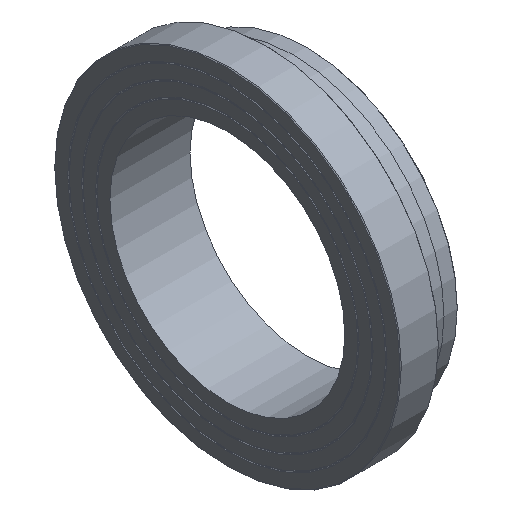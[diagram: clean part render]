
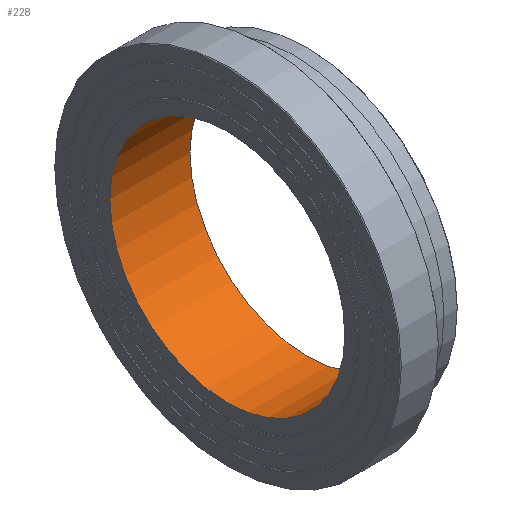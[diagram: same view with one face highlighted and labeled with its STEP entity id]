
A CAD part, isometric view. The second image highlights one B-rep face of the part: STEP entity #228.
In plain terms, the highlighted cylindrical face has radius 245 mm (diameter 490 mm), a full revolution.
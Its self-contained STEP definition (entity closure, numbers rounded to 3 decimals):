
#33=CYLINDRICAL_SURFACE('',#274,245.);
#50=ORIENTED_EDGE('',*,*,#79,.F.);
#51=ORIENTED_EDGE('',*,*,#76,.T.);
#76=EDGE_CURVE('',#96,#96,#116,.T.);
#79=EDGE_CURVE('',#99,#99,#119,.T.);
#96=VERTEX_POINT('',#383);
#99=VERTEX_POINT('',#390);
#116=CIRCLE('',#257,245.);
#119=CIRCLE('',#261,245.);
#150=EDGE_LOOP('',(#50));
#151=EDGE_LOOP('',(#51));
#190=FACE_BOUND('',#150,.T.);
#191=FACE_BOUND('',#151,.T.);
#228=ADVANCED_FACE('',(#190,#191),#33,.F.);
#257=AXIS2_PLACEMENT_3D('',#382,#303,#304);
#261=AXIS2_PLACEMENT_3D('',#389,#311,#312);
#274=AXIS2_PLACEMENT_3D('',#410,#337,#338);
#303=DIRECTION('',(-1.,0.,0.));
#304=DIRECTION('',(0.,0.,1.));
#311=DIRECTION('',(-1.,0.,0.));
#312=DIRECTION('',(0.,0.,1.));
#337=DIRECTION('',(-1.,0.,0.));
#338=DIRECTION('',(0.,0.,1.));
#382=CARTESIAN_POINT('',(0.,0.,0.));
#383=CARTESIAN_POINT('',(0.,0.,245.));
#389=CARTESIAN_POINT('',(167.,0.,0.));
#390=CARTESIAN_POINT('',(167.,0.,245.));
#410=CARTESIAN_POINT('',(60.,0.,0.));
